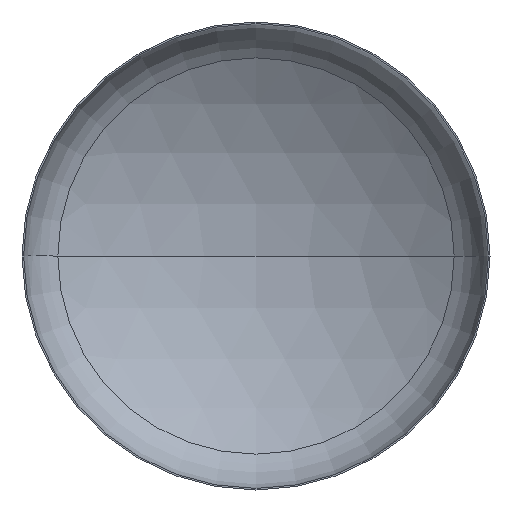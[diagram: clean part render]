
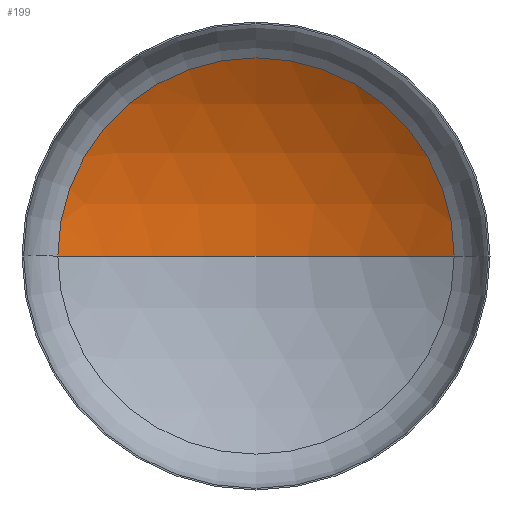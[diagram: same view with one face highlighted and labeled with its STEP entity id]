
A CAD part, front view. The second image highlights one B-rep face of the part: STEP entity #199.
In plain terms, the highlighted spherical face has radius 720 mm.
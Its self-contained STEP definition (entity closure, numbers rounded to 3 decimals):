
#2 = FACE_OUTER_BOUND ( 'NONE', #10, .T. ) ;
#4 = VERTEX_POINT ( 'NONE', #259 ) ;
#8 = DIRECTION ( 'NONE',  ( 0., -1., 0. ) ) ;
#10 = EDGE_LOOP ( 'NONE', ( #52, #18, #133 ) ) ;
#18 = ORIENTED_EDGE ( 'NONE', *, *, #126, .T. ) ;
#22 = CARTESIAN_POINT ( 'NONE',  ( 0., 138.78, 0. ) ) ;
#23 = AXIS2_PLACEMENT_3D ( 'NONE', #245, #261, #242 ) ;
#41 = AXIS2_PLACEMENT_3D ( 'NONE', #209, #224, #218 ) ;
#42 = AXIS2_PLACEMENT_3D ( 'NONE', #82, #156, #313 ) ;
#44 = AXIS2_PLACEMENT_3D ( 'NONE', #22, #8, #174 ) ;
#48 = VERTEX_POINT ( 'NONE', #300 ) ;
#52 = ORIENTED_EDGE ( 'NONE', *, *, #130, .F. ) ;
#82 = CARTESIAN_POINT ( 'NONE',  ( 0., -472.088, 0. ) ) ;
#122 = VERTEX_POINT ( 'NONE', #307 ) ;
#123 = EDGE_CURVE ( 'NONE', #122, #4, #278, .T. ) ;
#126 = EDGE_CURVE ( 'NONE', #48, #122, #344, .T. ) ;
#130 = EDGE_CURVE ( 'NONE', #48, #4, #401, .T. ) ;
#133 = ORIENTED_EDGE ( 'NONE', *, *, #123, .T. ) ;
#139 = SPHERICAL_SURFACE ( 'NONE', #23, 720. ) ;
#156 = DIRECTION ( 'NONE',  ( 0., 0., -1. ) ) ;
#174 = DIRECTION ( 'NONE',  ( 1., 0., 0. ) ) ;
#199 = ADVANCED_FACE ( 'NONE', ( #2 ), #139, .F. ) ;
#209 = CARTESIAN_POINT ( 'NONE',  ( 0., -472.088, 0. ) ) ;
#218 = DIRECTION ( 'NONE',  ( 1., 0., 0. ) ) ;
#224 = DIRECTION ( 'NONE',  ( 0., 0., 1. ) ) ;
#242 = DIRECTION ( 'NONE',  ( -1., 0., 0. ) ) ;
#245 = CARTESIAN_POINT ( 'NONE',  ( 0., -472.088, 0. ) ) ;
#259 = CARTESIAN_POINT ( 'NONE',  ( -381.103, 138.78, 0. ) ) ;
#261 = DIRECTION ( 'NONE',  ( 0., 0., -1. ) ) ;
#278 = CIRCLE ( 'NONE', #44, 381.103 ) ;
#300 = CARTESIAN_POINT ( 'NONE',  ( 0., 247.912, 0. ) ) ;
#307 = CARTESIAN_POINT ( 'NONE',  ( 381.103, 138.78, 0. ) ) ;
#313 = DIRECTION ( 'NONE',  ( -1., 0., 0. ) ) ;
#344 = CIRCLE ( 'NONE', #42, 720. ) ;
#401 = CIRCLE ( 'NONE', #41, 720. ) ;
